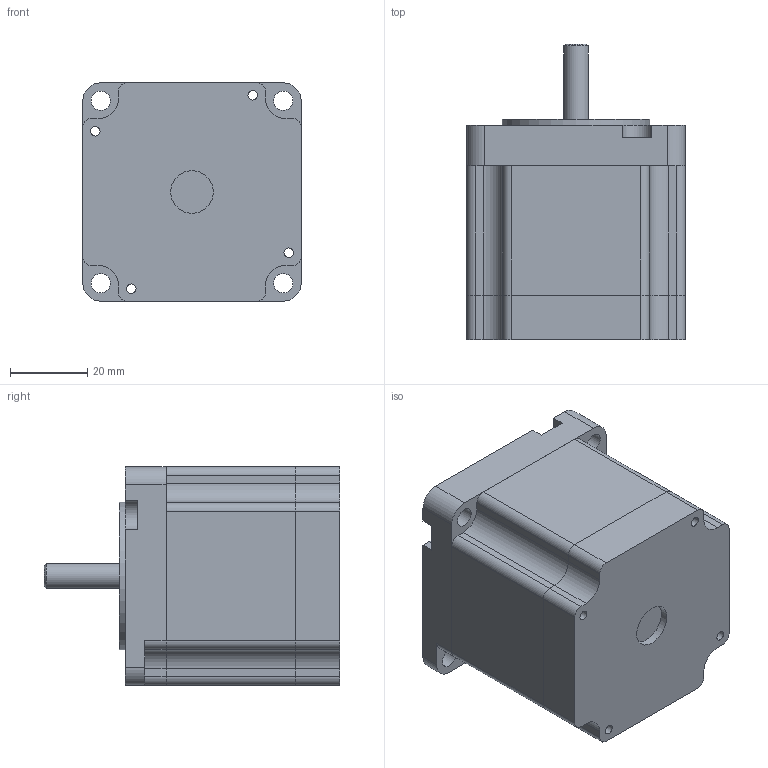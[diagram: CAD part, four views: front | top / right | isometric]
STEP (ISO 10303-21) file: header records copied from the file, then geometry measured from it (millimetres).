
FILE_DESCRIPTION(/* description */ (''),/* implementation_level */ '2;1');
FILE_NAME(/* name */ 'C:\Users\raffaele\Downloads\Projects\E&D\ipt-to-step-conversion\SLDPRT to STP\573P56.stp',/* time_stamp */ '2021-04-07T17:16:22+02:00',/* author */ ('raffaele'),/* organization */ (''),/* preprocessor_version */ 'ST-DEVELOPER v18.1',/* originating_system */ 'Autodesk Inventor 2021',/* authorisation */ '');
FILE_SCHEMA (('AUTOMOTIVE_DESIGN { 1 0 10303 214 3 1 1 }'));
Length unit declared in the file: inch
Products named in the file (1): 573P56
Bounding box: 56.4 x 76.4 x 56.4 mm (x, y, z)
Surface area: 22865.7 mm2 (no closed solid volume)
Topology: 0 solids, 5 shells, 104 faces, 299 edges, 203 vertices
Faces by surface type: plane 51, cylinder 51, cone 2
Full cylindrical faces by diameter (mm): 2.5 x4, 3.2 x4, 5 x4, 6.35 x1, 10 x1, 11 x1, 38.1 x1
Entity records: 3630 total; most frequent: DIRECTION 626, CARTESIAN_POINT 607, ORIENTED_EDGE 532, EDGE_CURVE 299, AXIS2_PLACEMENT_3D 222, VERTEX_POINT 203, LINE 182, VECTOR 182
